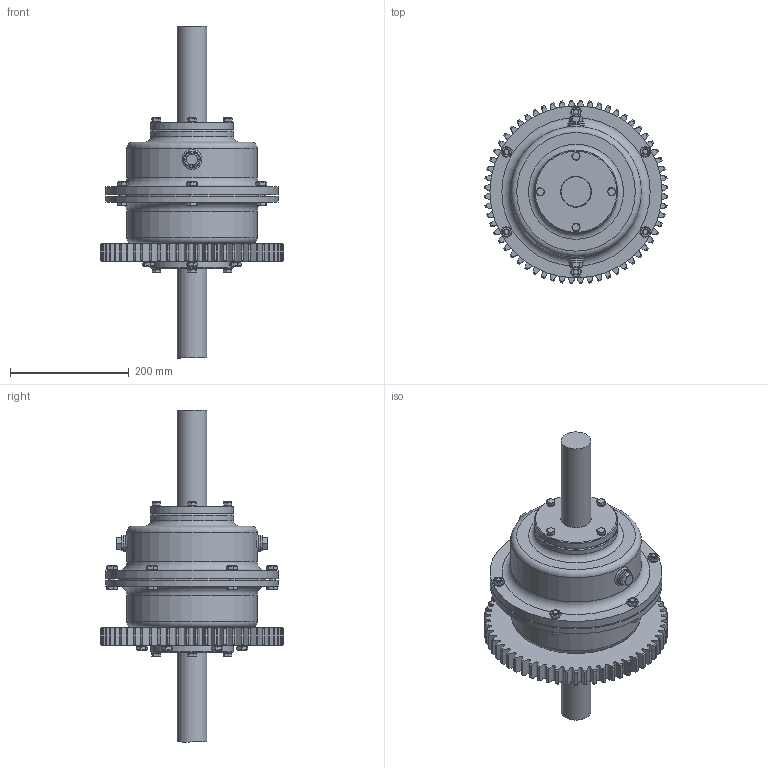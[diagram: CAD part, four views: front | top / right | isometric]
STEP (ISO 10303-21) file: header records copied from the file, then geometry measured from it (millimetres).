
FILE_DESCRIPTION(/* description */ (''),/* implementation_level */ '2;1');
FILE_NAME(/* name */ 'C:\Users\m.vorobev.TRINITY\Documents\Inventor\00-000.06.21.21.00 Дифференциал\00-000.06.21.21.00 СБ.stp',/* time_stamp */ '2019-01-15T15:53:43+03:00',/* author */ ('m.vorobev'),/* organization */ (''),/* preprocessor_version */ 'ST-DEVELOPER v17.2',/* originating_system */ 'Autodesk Inventor 2019',/* authorisation */ '');
FILE_SCHEMA (('AUTOMOTIVE_DESIGN { 1 0 10303 214 3 1 1 }'));
Products named in the file (29): 00-000.06.21.21.00 СБ; 00-000.06.21.21.05; 00-000.06.21.21.01; 00-000.06.21.21.02; 00-000.06.21.21.15; Key 2-36x20x100 GOST 23360-78; Stud M10-6g×45 GOST 22034-76; 00-000.06.21.21.07; 00-000.06.21.21.12; Bevel Gear1; 00-000.06.21.21.10; Bevel Gear2; Key 2-12x8x28 GOST 23360-78; 00-000.06.21.21.11; 00-000.06.21.21.13; 00-000.06.21.21.08; 00-000.06.21.21.09; 00-000.06.21.21.29; 00-000.06.21.21.06; 00-000.06.21.21.16; Bolt  M10-6g×35(S16) GOST 7798-70; Washer  10 L GOST 6402-70; Nut M10-6H GOST 5916-70; Nut 7003-0141 GOST 12460-67; Bearing 309 GOST 8338-75; Washer  8 L GOST 6402-70; Bolt  M8-6g×35(S13) GOST 7798-70; 00-000.06.21.21.17; 00-000.06.21.21.14
Assembly tree (106 placements, depth 2):
  00-000.06.21.21.00 СБ
    00-000.06.21.21.05
    00-000.06.21.21.10  x2
    00-000.06.21.21.01
    00-000.06.21.21.02
    00-000.06.21.21.15
    Key 2-36x20x100 GOST 23360-78
    Stud M10-6g×45 GOST 22034-76  x6
    00-000.06.21.21.07
    00-000.06.21.21.12  x4
    Bevel Gear1  x4
    Bevel Gear2  x2
    Key 2-12x8x28 GOST 23360-78  x2
    00-000.06.21.21.11
    00-000.06.21.21.13  x2
    00-000.06.21.21.08
    00-000.06.21.21.09
    00-000.06.21.21.29  x2
    00-000.06.21.21.06  x2
    00-000.06.21.21.17  x2
    00-000.06.21.21.16
    00-000.06.21.21.14  x2
    Bolt  M10-6g×35(S16) GOST 7798-70  x6
    Washer  10 L GOST 6402-70  x12
    Nut M10-6H GOST 5916-70  x12
    Nut 7003-0141 GOST 12460-67  x2
    Bearing 309 GOST 8338-75  x2
    Washer  8 L GOST 6402-70  x16
    Bolt  M8-6g×35(S13) GOST 7798-70  x16
Bounding box: 309.76 x 309.76 x 559.57 mm (x, y, z)
Volume: 7896248.2 mm3; surface area: 1423384.2 mm2
Topology: 124 solids, 124 shells, 2155 faces, 5736 edges, 3848 vertices
Faces by surface type: cone 742, plane 621, cylinder 369, bspline 346, torus 61, sphere 16
Full cylindrical faces by diameter (mm): 4.5 x12, 5 x2, 6.647 x8, 7.5 x2, 8 x16, 8.376 x18, 9 x16, 10 x12, 11 x18, 13 x2, 13.835 x2, 16 x4, 20 x8, 25 x2, 26 x8, 28 x8, 33.6 x2, 34.376 x2, 36 x2, 40 x2, 42 x2, 45 x6, 46.677 x4, 50 x2, 51 x2, 52 x6, 62 x2, 62.93 x4, 64 x2, 69 x4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
Entity records: 51745 total; most frequent: CARTESIAN_POINT 25379, ORIENTED_EDGE 5526, DIRECTION 4963, EDGE_CURVE 2763, AXIS2_PLACEMENT_3D 2198, VERTEX_POINT 1903, CIRCLE 1249, EDGE_LOOP 1178
